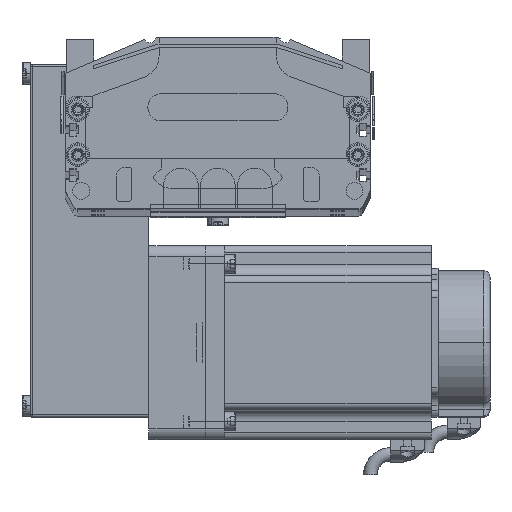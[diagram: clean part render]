
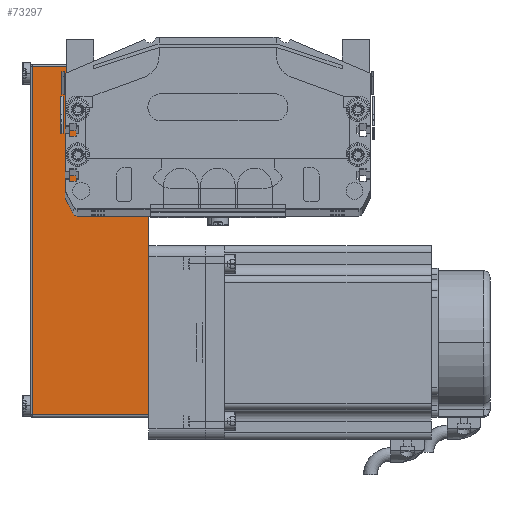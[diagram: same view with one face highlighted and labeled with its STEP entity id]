
A CAD part, top view. The second image highlights one B-rep face of the part: STEP entity #73297.
In plain terms, the highlighted planar face has unit normal (0, 0, 1) as drawn and (0, -1, 0) by its records, which use the part's own axes.
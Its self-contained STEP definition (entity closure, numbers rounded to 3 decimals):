
#38140 = LINE ( 'NONE', #38203, #38142 ) ;
#38142 = VECTOR ( 'NONE', #38202, 1000. ) ;
#38202 = DIRECTION ( 'NONE',  ( 0., 0., 1. ) ) ;
#38203 = CARTESIAN_POINT ( 'NONE',  ( 31., -40., 52.5 ) ) ;
#41244 = VECTOR ( 'NONE', #41286, 1000. ) ;
#41270 = LINE ( 'NONE', #41281, #41244 ) ;
#41281 = CARTESIAN_POINT ( 'NONE',  ( 32., -40., 0. ) ) ;
#41286 = DIRECTION ( 'NONE',  ( 1., 0., 0. ) ) ;
#45444 = CARTESIAN_POINT ( 'NONE',  ( 31., -40., 0. ) ) ;
#45619 = CARTESIAN_POINT ( 'NONE',  ( -123.2, -40., 0. ) ) ;
#51940 = DIRECTION ( 'NONE',  ( 0., 1., 0. ) ) ;
#51973 = CARTESIAN_POINT ( 'NONE',  ( -123.2, -40., 51.5 ) ) ;
#51974 = DIRECTION ( 'NONE',  ( -1., 0., 0. ) ) ;
#51996 = LINE ( 'NONE', #52003, #52068 ) ;
#52003 = CARTESIAN_POINT ( 'NONE',  ( 32., -40., 51.5 ) ) ;
#52067 = DIRECTION ( 'NONE',  ( -1., 0., 0. ) ) ;
#52068 = VECTOR ( 'NONE', #52067, 1000. ) ;
#52189 = CARTESIAN_POINT ( 'NONE',  ( 32., -40., 52.5 ) ) ;
#52190 = AXIS2_PLACEMENT_3D ( 'NONE', #52189, #51940, #51974 ) ;
#52195 = FACE_OUTER_BOUND ( 'NONE', #73354, .T. ) ;
#52196 = PLANE ( 'NONE',  #52190 ) ;
#52557 = CARTESIAN_POINT ( 'NONE',  ( 31., -40., 51.5 ) ) ;
#61020 = LINE ( 'NONE', #61150, #61148 ) ;
#61146 = DIRECTION ( 'NONE',  ( 0., 0., -1. ) ) ;
#61148 = VECTOR ( 'NONE', #61146, 1000. ) ;
#61150 = CARTESIAN_POINT ( 'NONE',  ( -123.2, -40., 52.5 ) ) ;
#72862 = EDGE_CURVE ( 'NONE', #73071, #73360, #38140, .T. ) ;
#72913 = EDGE_CURVE ( 'NONE', #73083, #73071, #41270, .T. ) ;
#73071 = VERTEX_POINT ( 'NONE', #45444 ) ;
#73083 = VERTEX_POINT ( 'NONE', #45619 ) ;
#73197 = ORIENTED_EDGE ( 'NONE', *, *, #73257, .T. ) ;
#73198 = EDGE_CURVE ( 'NONE', #73305, #73083, #61020, .T. ) ;
#73257 = EDGE_CURVE ( 'NONE', #73360, #73305, #51996, .T. ) ;
#73297 = ADVANCED_FACE ( 'NONE', ( #52195 ), #52196, .F. ) ;
#73304 = ORIENTED_EDGE ( 'NONE', *, *, #73198, .T. ) ;
#73305 = VERTEX_POINT ( 'NONE', #51973 ) ;
#73337 = ORIENTED_EDGE ( 'NONE', *, *, #72862, .T. ) ;
#73346 = ORIENTED_EDGE ( 'NONE', *, *, #72913, .T. ) ;
#73354 = EDGE_LOOP ( 'NONE', ( #73346, #73337, #73197, #73304 ) ) ;
#73360 = VERTEX_POINT ( 'NONE', #52557 ) ;
